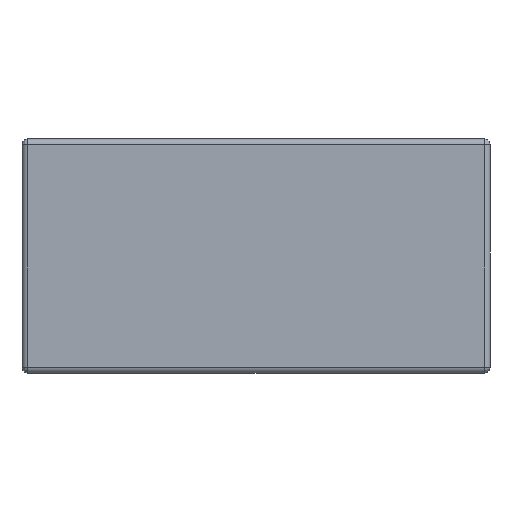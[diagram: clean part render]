
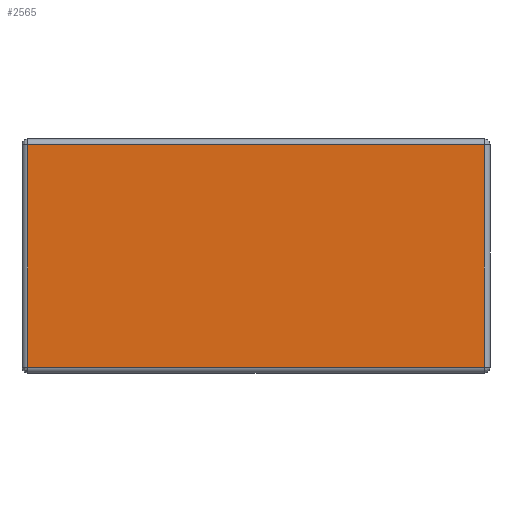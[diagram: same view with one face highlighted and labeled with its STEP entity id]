
A CAD part, top view. The second image highlights one B-rep face of the part: STEP entity #2565.
In plain terms, the highlighted planar face has unit normal (0, 0, 1).
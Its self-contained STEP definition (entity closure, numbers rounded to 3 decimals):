
#76 = VECTOR ( 'NONE', #2366, 1000. ) ;
#119 = EDGE_LOOP ( 'NONE', ( #602, #2298, #1551, #526 ) ) ;
#294 = LINE ( 'NONE', #1121, #1284 ) ;
#341 = LINE ( 'NONE', #575, #76 ) ;
#412 = DIRECTION ( 'NONE',  ( 1., 0., 0. ) ) ;
#511 = DIRECTION ( 'NONE',  ( 0., -1., 0. ) ) ;
#526 = ORIENTED_EDGE ( 'NONE', *, *, #635, .T. ) ;
#575 = CARTESIAN_POINT ( 'NONE',  ( 79., 0., 2. ) ) ;
#579 = VECTOR ( 'NONE', #2577, 1000. ) ;
#602 = ORIENTED_EDGE ( 'NONE', *, *, #1019, .T. ) ;
#635 = EDGE_CURVE ( 'NONE', #1346, #2511, #341, .T. ) ;
#834 = EDGE_CURVE ( 'NONE', #2374, #1346, #2022, .T. ) ;
#917 = LINE ( 'NONE', #1736, #579 ) ;
#1019 = EDGE_CURVE ( 'NONE', #2511, #1063, #917, .T. ) ;
#1063 = VERTEX_POINT ( 'NONE', #2389 ) ;
#1121 = CARTESIAN_POINT ( 'NONE',  ( 1., 0., 2. ) ) ;
#1153 = FACE_OUTER_BOUND ( 'NONE', #119, .T. ) ;
#1253 = DIRECTION ( 'NONE',  ( 1., 0., 0. ) ) ;
#1284 = VECTOR ( 'NONE', #511, 1000. ) ;
#1303 = AXIS2_PLACEMENT_3D ( 'NONE', #1963, #2441, #1253 ) ;
#1346 = VERTEX_POINT ( 'NONE', #2018 ) ;
#1388 = PLANE ( 'NONE',  #1303 ) ;
#1537 = CARTESIAN_POINT ( 'NONE',  ( 79., 39., 2. ) ) ;
#1551 = ORIENTED_EDGE ( 'NONE', *, *, #834, .T. ) ;
#1680 = EDGE_CURVE ( 'NONE', #1063, #2374, #294, .T. ) ;
#1736 = CARTESIAN_POINT ( 'NONE',  ( 79., 39., 2. ) ) ;
#1852 = CARTESIAN_POINT ( 'NONE',  ( 1., 1., 2. ) ) ;
#1963 = CARTESIAN_POINT ( 'NONE',  ( 79., 0., 2. ) ) ;
#2018 = CARTESIAN_POINT ( 'NONE',  ( 79., 1., 2. ) ) ;
#2022 = LINE ( 'NONE', #2631, #2542 ) ;
#2298 = ORIENTED_EDGE ( 'NONE', *, *, #1680, .T. ) ;
#2366 = DIRECTION ( 'NONE',  ( 0., 1., 0. ) ) ;
#2374 = VERTEX_POINT ( 'NONE', #1852 ) ;
#2389 = CARTESIAN_POINT ( 'NONE',  ( 1., 39., 2. ) ) ;
#2441 = DIRECTION ( 'NONE',  ( 0., 0., 1. ) ) ;
#2511 = VERTEX_POINT ( 'NONE', #1537 ) ;
#2542 = VECTOR ( 'NONE', #412, 1000. ) ;
#2565 = ADVANCED_FACE ( 'NONE', ( #1153 ), #1388, .T. ) ;
#2577 = DIRECTION ( 'NONE',  ( -1., 0., 0. ) ) ;
#2631 = CARTESIAN_POINT ( 'NONE',  ( 79., 1., 2. ) ) ;
